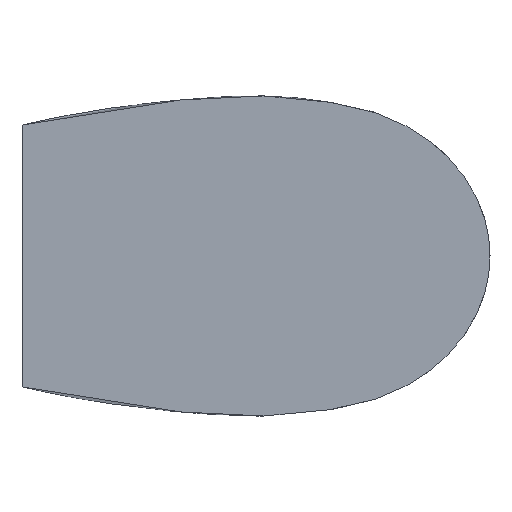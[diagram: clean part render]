
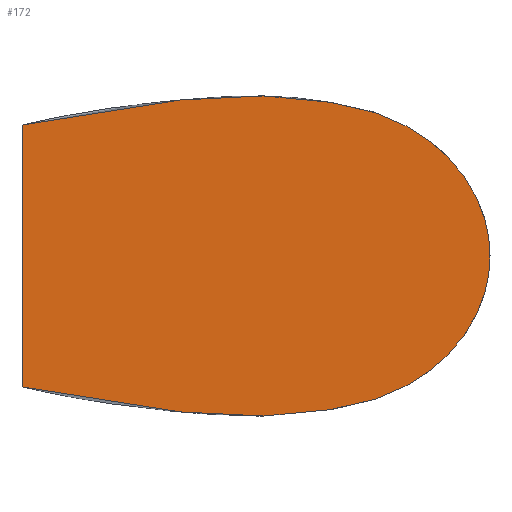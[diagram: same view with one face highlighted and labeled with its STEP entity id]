
A CAD part, left-side view. The second image highlights one B-rep face of the part: STEP entity #172.
In plain terms, the highlighted planar face has unit normal (-1, 0, 0).
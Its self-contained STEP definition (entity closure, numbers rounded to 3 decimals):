
#2=DIRECTION('',(0.,0.,-1.));
#3=VECTOR('',#2,1.989);
#4=CARTESIAN_POINT('',(-9.,-0.3,0.995));
#5=LINE('',#4,#3);
#10=CARTESIAN_POINT('',(-9.,-0.3,0.995));
#11=CARTESIAN_POINT('',(-9.,-0.447,1.029));
#12=CARTESIAN_POINT('',(-9.,-0.739,1.089));
#13=CARTESIAN_POINT('',(-9.,-1.104,1.144));
#14=CARTESIAN_POINT('',(-9.,-1.365,1.173));
#15=CARTESIAN_POINT('',(-9.,-1.515,1.186));
#16=CARTESIAN_POINT('',(-9.,-1.61,1.194));
#17=CARTESIAN_POINT('',(-9.,-1.687,1.198));
#18=CARTESIAN_POINT('',(-9.,-1.764,1.206));
#19=CARTESIAN_POINT('',(-9.,-1.9,1.215));
#20=CARTESIAN_POINT('',(-9.,-2.11,1.219));
#21=CARTESIAN_POINT('',(-9.,-2.38,1.206));
#22=CARTESIAN_POINT('',(-9.,-2.669,1.166));
#23=CARTESIAN_POINT('',(-9.,-2.961,1.106));
#24=CARTESIAN_POINT('',(-9.,-3.24,0.987));
#25=CARTESIAN_POINT('',(-9.,-3.491,0.81));
#26=CARTESIAN_POINT('',(-9.,-3.693,0.577));
#27=CARTESIAN_POINT('',(-9.,-3.825,0.3));
#28=CARTESIAN_POINT('',(-9.,-3.855,0.099));
#29=CARTESIAN_POINT('',(-9.,-3.855,0.));
#31=CARTESIAN_POINT('',(-9.,-0.3,-0.995));
#32=CARTESIAN_POINT('',(-9.,-0.447,-1.029));
#33=CARTESIAN_POINT('',(-9.,-0.739,-1.089));
#34=CARTESIAN_POINT('',(-9.,-1.104,-1.144));
#35=CARTESIAN_POINT('',(-9.,-1.365,-1.173));
#36=CARTESIAN_POINT('',(-9.,-1.515,-1.186));
#37=CARTESIAN_POINT('',(-9.,-1.61,-1.194));
#38=CARTESIAN_POINT('',(-9.,-1.687,-1.198));
#39=CARTESIAN_POINT('',(-9.,-1.764,-1.206));
#40=CARTESIAN_POINT('',(-9.,-1.9,-1.215));
#41=CARTESIAN_POINT('',(-9.,-2.11,-1.219));
#42=CARTESIAN_POINT('',(-9.,-2.38,-1.206));
#43=CARTESIAN_POINT('',(-9.,-2.669,-1.166));
#44=CARTESIAN_POINT('',(-9.,-2.961,-1.106));
#45=CARTESIAN_POINT('',(-9.,-3.24,-0.987));
#46=CARTESIAN_POINT('',(-9.,-3.491,-0.81));
#47=CARTESIAN_POINT('',(-9.,-3.693,-0.577));
#48=CARTESIAN_POINT('',(-9.,-3.825,-0.3));
#49=CARTESIAN_POINT('',(-9.,-3.855,-0.099));
#50=CARTESIAN_POINT('',(-9.,-3.855,0.));
#137=CARTESIAN_POINT('',(-9.,-0.3,0.995));
#138=CARTESIAN_POINT('',(-9.,-0.3,-0.995));
#139=VERTEX_POINT('',#137);
#140=VERTEX_POINT('',#138);
#141=VERTEX_POINT('',#29);
#160=CARTESIAN_POINT('',(-9.,0.,0.));
#161=DIRECTION('',(1.,0.,0.));
#162=DIRECTION('',(0.,0.,-1.));
#163=AXIS2_PLACEMENT_3D('',#160,#161,#162);
#164=PLANE('',#163);
#165=ORIENTED_EDGE('',*,*,#147,.F.);
#167=ORIENTED_EDGE('',*,*,#166,.T.);
#169=ORIENTED_EDGE('',*,*,#168,.F.);
#170=EDGE_LOOP('',(#165,#167,#169));
#171=FACE_OUTER_BOUND('',#170,.F.);
#172=ADVANCED_FACE('',(#171),#164,.F.);
#30=B_SPLINE_CURVE_WITH_KNOTS('',3,(#10,#11,#12,#13,#14,#15,#16,#17,#18,#19,#20,
#21,#22,#23,#24,#25,#26,#27,#28,#29),.UNSPECIFIED.,.F.,.F.,(4,1,1,1,1,1,1,1,1,1,
1,1,1,1,1,1,1,4),(0.,0.117,0.233,0.292,
0.321,0.35,0.365,0.379,
0.408,0.467,0.533,0.6,
0.667,0.733,0.8,0.867,
0.933,1.),.UNSPECIFIED.);
#51=B_SPLINE_CURVE_WITH_KNOTS('',3,(#31,#32,#33,#34,#35,#36,#37,#38,#39,#40,#41,
#42,#43,#44,#45,#46,#47,#48,#49,#50),.UNSPECIFIED.,.F.,.F.,(4,1,1,1,1,1,1,1,1,1,
1,1,1,1,1,1,1,4),(0.,0.117,0.233,0.292,
0.321,0.35,0.365,0.379,
0.408,0.467,0.533,0.6,
0.667,0.733,0.8,0.867,
0.933,1.),.UNSPECIFIED.);
#147=EDGE_CURVE('',#139,#140,#5,.T.);
#166=EDGE_CURVE('',#139,#141,#30,.T.);
#168=EDGE_CURVE('',#140,#141,#51,.T.);
